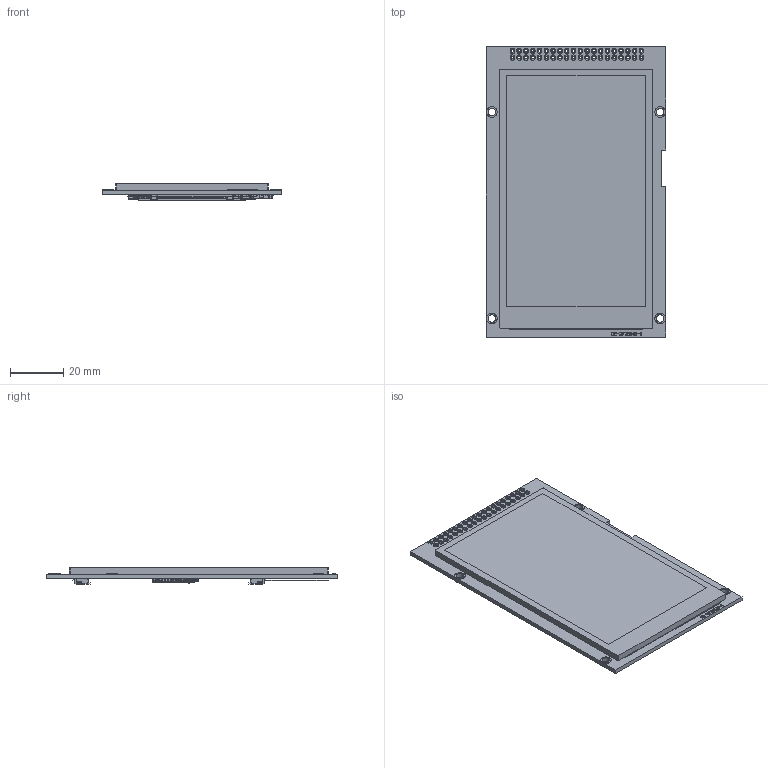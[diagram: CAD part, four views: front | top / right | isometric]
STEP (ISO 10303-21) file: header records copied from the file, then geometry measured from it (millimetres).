
FILE_DESCRIPTION(('HOOPS Exchange Step'),'2;1');
FILE_NAME('\\Server-1\e\公共文件夹\7.产品资料库\彩色-TFT\4寸\ER-TFTM040-1\3D\ER-TFTM040-1_3D.step','2021-01-28T09:25:07+08:00',('Administrator'),('Unknown organisation'),'HOOPS Exchange 2018.2','glovius.exe','Unknown authorisation');
FILE_SCHEMA( ('AUTOMOTIVE_DESIGN { 1 0 10303 214 1 1 1 1 }') );
Length unit declared in the file: millimetre
Products named in the file (8): 连接器_50-Pin - 副本-1; SD卡座-1; 连接器_50-Pin-1; FLASH_IC-1; 40-1-1; XPT2046-1; Default; ER-TFTM040-1
Assembly tree (8 placements, depth 3):
  ER-TFTM040-1
    Default
      连接器_50-Pin - 副本-1
      SD卡座-1
      连接器_50-Pin-1
      FLASH_IC-1  x2
      40-1-1
      XPT2046-1
Bounding box: 67 x 108.6 x 6.08 mm (x, y, z)
Volume: 24990.9 mm3; surface area: 24591 mm2
Topology: 104 solids, 104 shells, 7278 faces, 18641 edges, 11700 vertices
Faces by surface type: bspline 7278
Entity records: 722305 total; most frequent: CARTESIAN_POINT 487316, B_SPLINE_CURVE_WITH_KNOTS 49416, DEFINITIONAL_REPRESENTATION 36014, PCURVE 36014, ORIENTED_EDGE 36014, INTERSECTION_CURVE 18007, EDGE_CURVE 18007, VERTEX_POINT 11472
